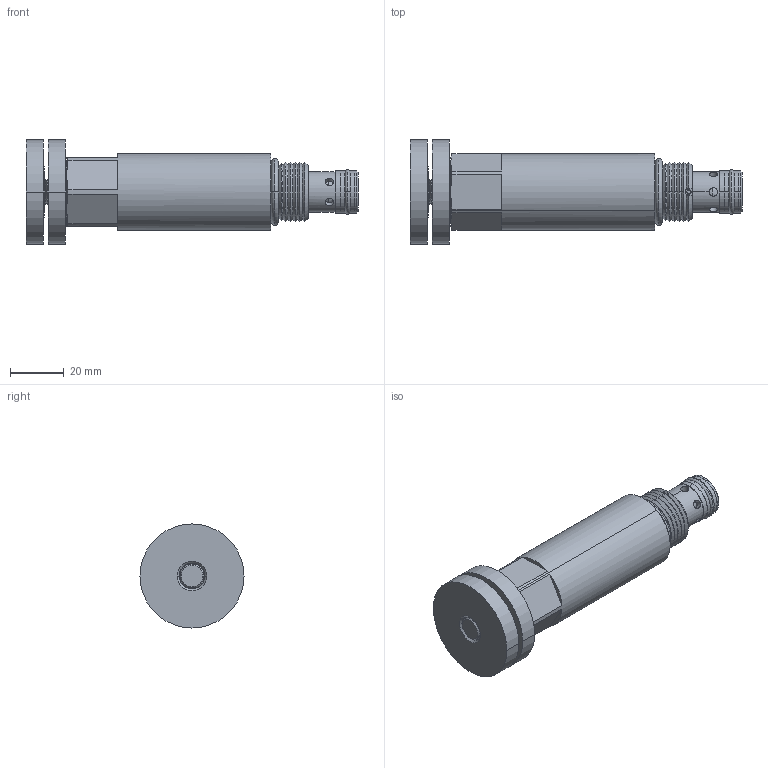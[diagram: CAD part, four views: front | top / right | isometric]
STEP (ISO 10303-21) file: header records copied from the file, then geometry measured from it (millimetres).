
FILE_DESCRIPTION((''),'2;1');
FILE_NAME('U:\Solid model CD\Solid model full\Mechanical\STEP\DERVB0K-3D Full.stp','2008-07-28T16:16:05',('Dan'),(''),'Autodesk Inventor 9','Autodesk Inventor 9','');
FILE_SCHEMA(('AUTOMOTIVE_DESIGN { 1 0 10303 214 1 1 1 1 }'));
Length unit declared in the file: inch
Products named in the file (8): DERVB0K-3D Full; DERVB0K-3D Full1; DERVB0K-3D Full2; DERVB0K-3D Full3; DERVB0K-3D Full4; DERVB0K-3D Full5; DERVB0K-3D Full6; DERVB0K-3D Full7
Assembly tree (7 placements, depth 2):
  DERVB0K-3D Full
    DERVB0K-3D Full1
    DERVB0K-3D Full2
    DERVB0K-3D Full3
    DERVB0K-3D Full4
    DERVB0K-3D Full5
    DERVB0K-3D Full6
    DERVB0K-3D Full7
Bounding box: 123.95 x 38.86 x 38.86 mm (x, y, z)
Volume: 70231.9 mm3; surface area: 19673.6 mm2
Topology: 7 solids, 7 shells, 278 faces, 615 edges, 351 vertices
Faces by surface type: cone 160, cylinder 59, plane 51, torus 8
Entity records: 8178 total; most frequent: CARTESIAN_POINT 1881, DIRECTION 1380, ORIENTED_EDGE 1230, EDGE_CURVE 615, AXIS2_PLACEMENT_3D 579, VERTEX_POINT 351, EDGE_LOOP 306, CIRCLE 286
